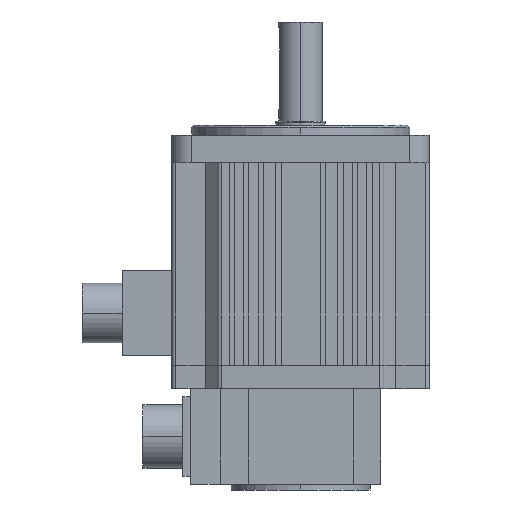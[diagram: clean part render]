
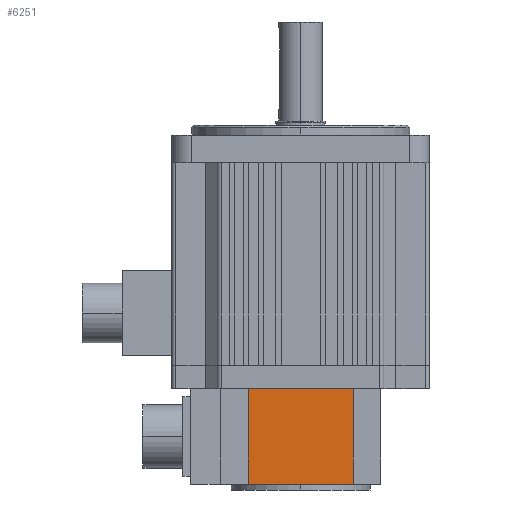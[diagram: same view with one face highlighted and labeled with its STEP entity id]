
A CAD part, left-side view. The second image highlights one B-rep face of the part: STEP entity #6251.
In plain terms, the highlighted planar face has unit normal (-1, 0, 0) as drawn and (1, 0, 0) by its records, which use the part's own axes.
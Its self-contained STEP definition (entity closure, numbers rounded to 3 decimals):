
#345 = EDGE_CURVE ( 'NONE', #5997, #4464, #7887, .T. ) ;
#400 = DIRECTION ( 'NONE',  ( 0., 1., 0. ) ) ;
#471 = PLANE ( 'NONE',  #2701 ) ;
#532 = DIRECTION ( 'NONE',  ( 0., 0., -1. ) ) ;
#1272 = VECTOR ( 'NONE', #400, 1000. ) ;
#1449 = VERTEX_POINT ( 'NONE', #14620 ) ;
#1705 = DIRECTION ( 'NONE',  ( 1., 0., 0. ) ) ;
#1932 = CARTESIAN_POINT ( 'NONE',  ( 81., 67., -48. ) ) ;
#2701 = AXIS2_PLACEMENT_3D ( 'NONE', #2955, #1705, #532 ) ;
#2955 = CARTESIAN_POINT ( 'NONE',  ( 81., 14., -48. ) ) ;
#4143 = CARTESIAN_POINT ( 'NONE',  ( 81., 67., 0. ) ) ;
#4464 = VERTEX_POINT ( 'NONE', #12095 ) ;
#5097 = CARTESIAN_POINT ( 'NONE',  ( 81., 14., -48. ) ) ;
#5216 = VECTOR ( 'NONE', #13418, 1000. ) ;
#5482 = EDGE_CURVE ( 'NONE', #4464, #9100, #12688, .T. ) ;
#5997 = VERTEX_POINT ( 'NONE', #5097 ) ;
#6034 = DIRECTION ( 'NONE',  ( 0., 1., 0. ) ) ;
#6251 = ADVANCED_FACE ( 'NONE', ( #8968 ), #471, .T. ) ;
#7887 = LINE ( 'NONE', #8449, #8078 ) ;
#8078 = VECTOR ( 'NONE', #9859, 1000. ) ;
#8242 = ORIENTED_EDGE ( 'NONE', *, *, #5482, .F. ) ;
#8449 = CARTESIAN_POINT ( 'NONE',  ( 81., 14., -48. ) ) ;
#8753 = EDGE_LOOP ( 'NONE', ( #8242, #16249, #9338, #12448 ) ) ;
#8968 = FACE_OUTER_BOUND ( 'NONE', #8753, .T. ) ;
#9100 = VERTEX_POINT ( 'NONE', #4143 ) ;
#9199 = VECTOR ( 'NONE', #6034, 1000. ) ;
#9251 = LINE ( 'NONE', #1932, #5216 ) ;
#9338 = ORIENTED_EDGE ( 'NONE', *, *, #13715, .T. ) ;
#9859 = DIRECTION ( 'NONE',  ( 0., 0., 1. ) ) ;
#12095 = CARTESIAN_POINT ( 'NONE',  ( 81., 14., 0. ) ) ;
#12448 = ORIENTED_EDGE ( 'NONE', *, *, #16232, .T. ) ;
#12688 = LINE ( 'NONE', #15034, #9199 ) ;
#13213 = LINE ( 'NONE', #13222, #1272 ) ;
#13222 = CARTESIAN_POINT ( 'NONE',  ( 81., 14., -48. ) ) ;
#13418 = DIRECTION ( 'NONE',  ( 0., 0., 1. ) ) ;
#13715 = EDGE_CURVE ( 'NONE', #5997, #1449, #13213, .T. ) ;
#14620 = CARTESIAN_POINT ( 'NONE',  ( 81., 67., -48. ) ) ;
#15034 = CARTESIAN_POINT ( 'NONE',  ( 81., 14., 0. ) ) ;
#16232 = EDGE_CURVE ( 'NONE', #1449, #9100, #9251, .T. ) ;
#16249 = ORIENTED_EDGE ( 'NONE', *, *, #345, .F. ) ;
